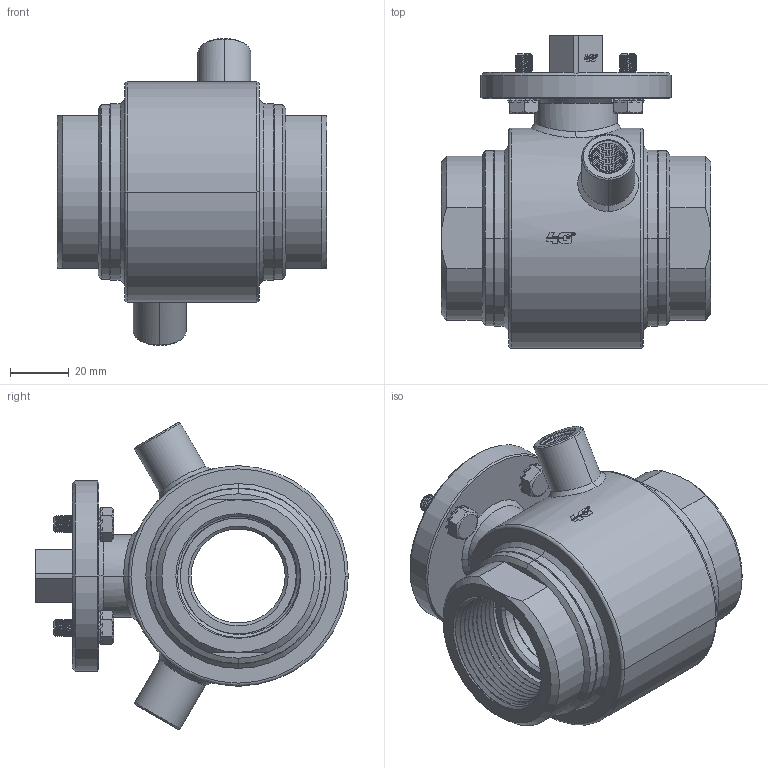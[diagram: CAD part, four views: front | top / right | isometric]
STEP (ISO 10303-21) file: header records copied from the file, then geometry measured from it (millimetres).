
FILE_DESCRIPTION((''),'2;1');
FILE_NAME('103001C6301F_SW0001','2025-12-17T17:05:31',('tecnico2'),('CDM Tecnoconsulting'),'CREO PARAMETRIC BY PTC INC, 2024063','CREO PARAMETRIC BY PTC INC, 2024063','');
FILE_SCHEMA(('CONFIG_CONTROL_DESIGN','SHAPE_APPEARANCE_LAYERS_GROUPS'));
Products named in the file (1): 103001C6301F_SW0001
Bounding box: 92 x 106.5 x 104.63 mm (x, y, z)
Volume: 216880.4 mm3; surface area: 93037.1 mm2
Topology: 1 solids, 1 shells, 1919 faces, 5296 edges, 3354 vertices
Faces by surface type: plane 763, cylinder 513, extrusion 221, cone 174, bspline 174, torus 70, sphere 4
Entity records: 155130 total; most frequent: CARTESIAN_POINT 93739, ORIENTED_EDGE 10576, DIRECTION 7368, PRESENTATION_STYLE_ASSIGNMENT 5365, STYLED_ITEM 5289, CURVE_STYLE 5288, EDGE_CURVE 5288, VERTEX_POINT 3354
